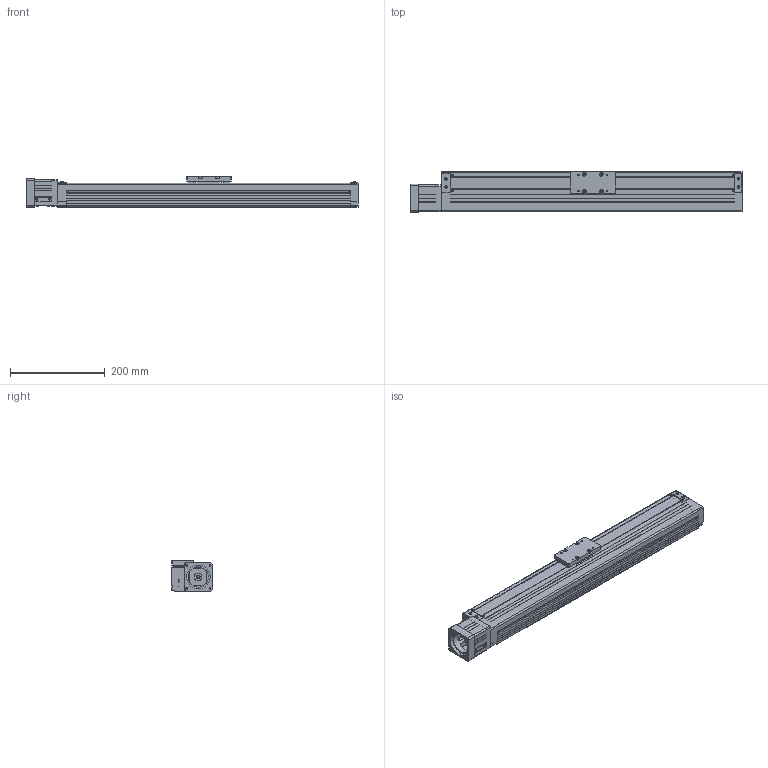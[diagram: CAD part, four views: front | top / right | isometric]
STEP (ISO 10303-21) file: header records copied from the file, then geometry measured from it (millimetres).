
FILE_DESCRIPTION((''),'2;1');
FILE_NAME('D:\製品 (図面)\カタログ用3D\SU部品\SU85×65\ダウンロード用\SU85×65-MB60\SU85×65-500-MB60.stp','2011-07-01T17:51:04',('Tsuchiya'),(''),'Autodesk Inventor 10','Autodesk Inventor 10','');
FILE_SCHEMA(('AUTOMOTIVE_DESIGN { 1 0 10303 214 1 1 1 1 }'));
Length unit declared in the file: millimetre
Products named in the file (3): SU85×65-500-MB60; SU85×65-500-MB601; SU85×65-500-MB602
Assembly tree (2 placements, depth 2):
  SU85×65-500-MB60
    SU85×65-500-MB601
    SU85×65-500-MB602
Bounding box: 701 x 86.45 x 65 mm (x, y, z)
Volume: 1283044.1 mm3; surface area: 440185.5 mm2
Topology: 8 solids, 8 shells, 837 faces, 2226 edges, 1442 vertices
Faces by surface type: plane 699, cylinder 104, cone 18, torus 12, bspline 4
Full cylindrical faces by diameter (mm): 3.242 x4, 4 x4, 4.134 x16, 4.5 x4, 5.5 x4, 6 x1, 7 x4, 8 x1, 11.5 x1, 12 x1, 13 x1, 43 x1, 50 x1
Entity records: 25734 total; most frequent: CARTESIAN_POINT 5179, ORIENTED_EDGE 4238, DIRECTION 4024, EDGE_CURVE 2119, VECTOR 1714, LINE 1714, VERTEX_POINT 1412, AXIS2_PLACEMENT_3D 1155
